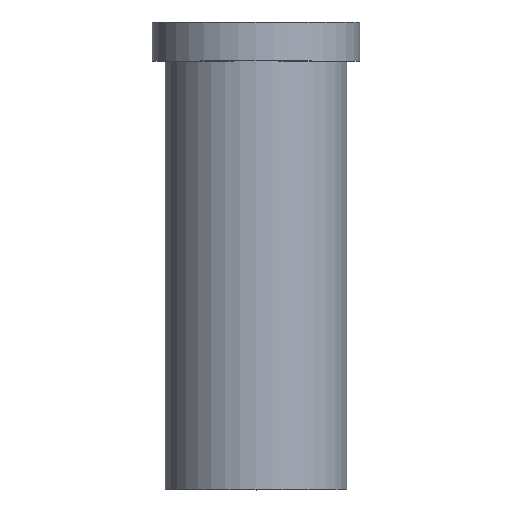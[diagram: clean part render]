
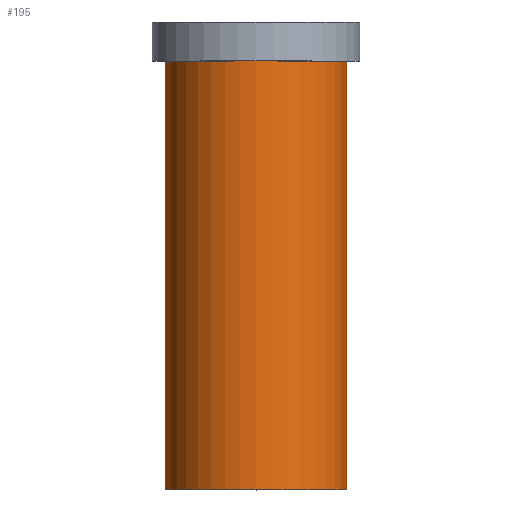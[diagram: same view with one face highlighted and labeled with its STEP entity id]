
A CAD part, top view. The second image highlights one B-rep face of the part: STEP entity #195.
In plain terms, the highlighted cylindrical face has radius 7 mm (diameter 14 mm), a full revolution.
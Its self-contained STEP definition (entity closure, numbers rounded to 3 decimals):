
#32=ORIENTED_EDGE('',*,*,#50,.T.);
#33=ORIENTED_EDGE('',*,*,#49,.F.);
#49=EDGE_CURVE('',#59,#59,#69,.T.);
#50=EDGE_CURVE('',#60,#60,#70,.T.);
#59=VERTEX_POINT('',#280);
#60=VERTEX_POINT('',#283);
#69=CIRCLE('',#213,7.);
#70=CIRCLE('',#215,7.);
#82=EDGE_LOOP('',(#32));
#83=EDGE_LOOP('',(#33));
#102=FACE_BOUND('',#82,.T.);
#103=FACE_BOUND('',#83,.T.);
#117=CYLINDRICAL_SURFACE('',#214,7.);
#195=ADVANCED_FACE('',(#102,#103),#117,.T.);
#213=AXIS2_PLACEMENT_3D('',#279,#241,#242);
#214=AXIS2_PLACEMENT_3D('',#281,#243,#244);
#215=AXIS2_PLACEMENT_3D('',#282,#245,#246);
#241=DIRECTION('',(0.,-1.,0.));
#242=DIRECTION('',(0.,0.,-1.));
#243=DIRECTION('',(0.,-1.,0.));
#244=DIRECTION('',(0.,0.,-1.));
#245=DIRECTION('',(0.,-1.,0.));
#246=DIRECTION('',(0.,0.,-1.));
#279=CARTESIAN_POINT('',(0.,0.,0.));
#280=CARTESIAN_POINT('',(0.,0.,-7.));
#281=CARTESIAN_POINT('',(0.,0.,0.));
#282=CARTESIAN_POINT('',(0.,33.,0.));
#283=CARTESIAN_POINT('',(0.,33.,-7.));
